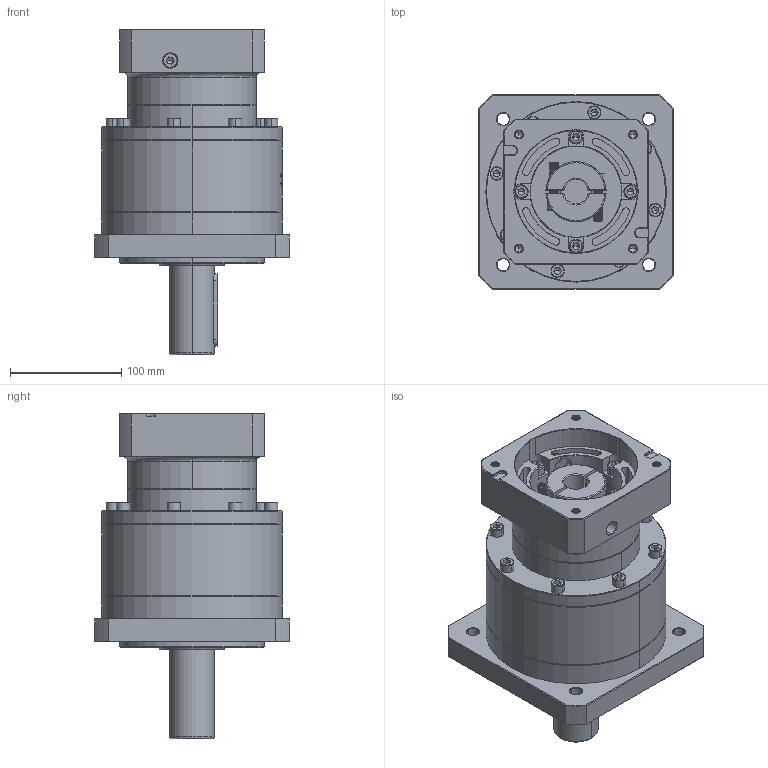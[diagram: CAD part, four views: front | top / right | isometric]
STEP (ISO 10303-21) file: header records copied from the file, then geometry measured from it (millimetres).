
FILE_DESCRIPTION (( 'STEP AP214' ), '1' );
FILE_NAME ('ZF160-D40-L2-22-110-145-M8.step', '2023-03-22T03:56:19', ( '' ), ( '' ), 'SwSTEP 2.0', 'SolidWorks 2016', '' );
FILE_SCHEMA (( 'AUTOMOTIVE_DESIGN' ));
Length unit declared in the file: millimetre
Products named in the file (1): ZF160-D40-L2-22-110-145-M8
Bounding box: 175 x 175 x 292.2 mm (x, y, z)
Volume: 3585570.1 mm3; surface area: 282063.5 mm2
Topology: 6 solids, 6 shells, 1914 faces, 4881 edges, 3087 vertices
Faces by surface type: plane 772, cylinder 511, cone 361, bspline 214, torus 56
Entity records: 102789 total; most frequent: CARTESIAN_POINT 37765, ORIENTED_EDGE 9654, DIRECTION 8469, EDGE_CURVE 4827, VERTEX_POINT 3087, AXIS2_PLACEMENT_3D 2946, VECTOR 2577, LINE 2577
